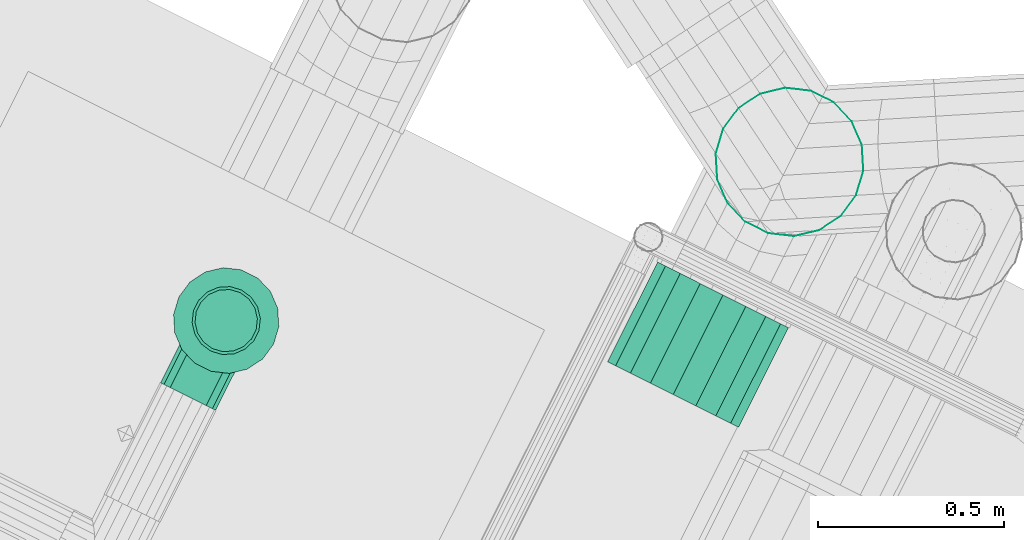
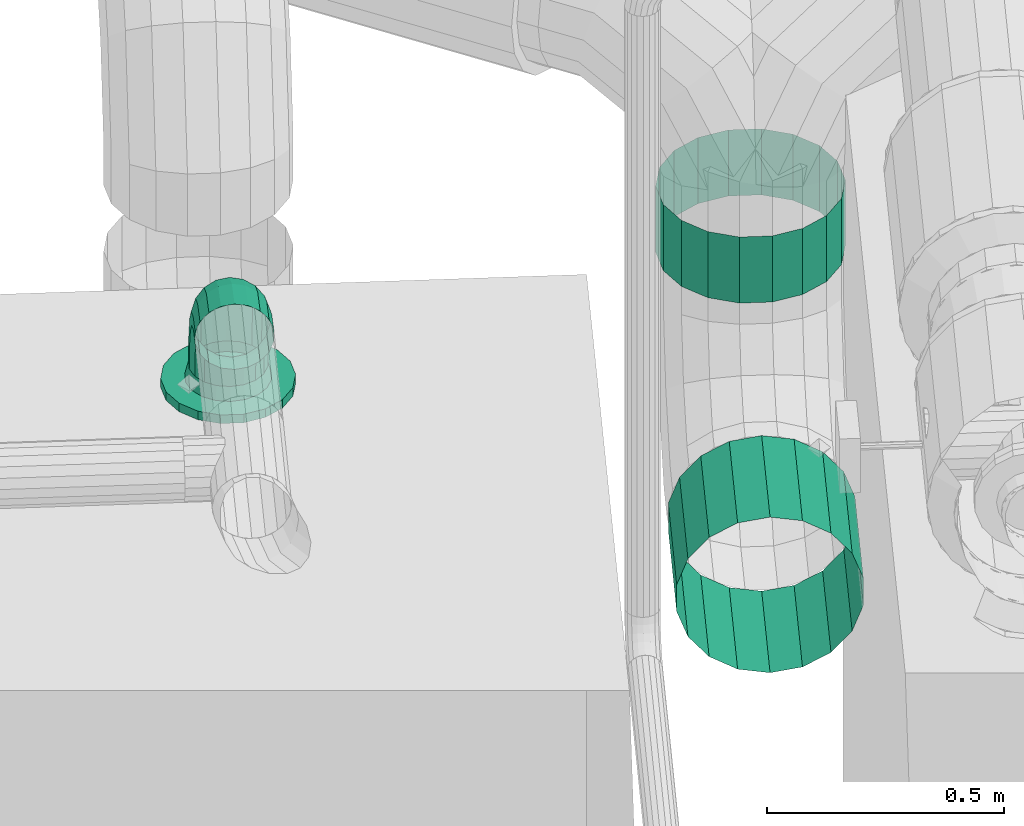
# One storey, part 122 of 206: 4 flow segments, 1 flow fitting.
"""IFC2X3 building model written with IfcOpenShell, lengths in metres."""

from ifc_helpers import new_model, si_unit, derived_unit, direction, frame, origin, place, context, subcontext, project, spatial, face_set, surface_model, source, transform, mapped, material, type_object, type_shapes, element, save


model = new_model("IFC2X3")

# Units and contexts
model_context = context("Model", 3, precision=5.2338327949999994e-05, world=origin(), true_north=direction((0.0, 1.0)))
body_context = subcontext(model_context, "Body", "Model", "MODEL_VIEW")
ifc_project = project(units=[si_unit("LENGTHUNIT", "METRE"), si_unit("AREAUNIT", "SQUARE_METRE"), si_unit("VOLUMEUNIT", "CUBIC_METRE"), si_unit("MASSUNIT", "GRAM", prefix="KILO"), si_unit("PLANEANGLEUNIT", "RADIAN"), derived_unit("THERMALTRANSMITTANCEUNIT", [(si_unit("MASSUNIT", "GRAM", prefix="KILO"), 1), (si_unit("THERMODYNAMICTEMPERATUREUNIT", "KELVIN"), -1), (si_unit("TIMEUNIT", "SECOND"), -3)])], contexts=[model_context])

# Site, building, storey
site_placement = place(None, frame((0.0, 0.0, 0.0), z_axis=(0.0, 0.0, 1.0), x_axis=(0.8939966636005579, -0.4480736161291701, 0.0)))
site = spatial("IfcSite", under=ifc_project, at=site_placement, Name="Default", CompositionType="ELEMENT")
building_placement = place(site_placement, origin())
building = spatial("IfcBuilding", under=site, at=building_placement, CompositionType="ELEMENT")
storey_placement = place(building_placement, origin())
storey = spatial("IfcBuildingStorey", under=building, at=storey_placement, Name="Erdgeschoss", CompositionType="ELEMENT", Elevation=0.0)

# Flow segments
ifc_material_1 = material(Name="IfcSurfaceStyle #251447")
distribution_element_type_1 = type_object("IfcDistributionElementType", material=ifc_material_1)
shared_shape_1 = source(origin(), body_context, "Body", "SurfaceModel", [
    surface_model("IfcFaceBasedSurfaceModel", [(22.605508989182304, 7.728208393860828, 1.4300000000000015), (22.673913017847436, 7.728208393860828, 1.4179385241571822), (22.673913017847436, 8.028208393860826, 1.417938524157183), (22.6055089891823, 8.028208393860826, 1.4300000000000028), (22.734066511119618, 7.728208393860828, 1.3832088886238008), (22.73406651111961, 8.028208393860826, 1.3832088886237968), (22.7787140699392, 7.728208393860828, 1.3300000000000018), (22.778714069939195, 8.028208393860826, 1.3299999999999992), (22.80247053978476, 7.728208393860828, 1.2647296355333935), (22.802470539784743, 8.028208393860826, 1.2647296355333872), (22.802470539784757, 7.728208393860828, 1.1952703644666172), (22.80247053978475, 8.028208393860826, 1.1952703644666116), (22.77871406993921, 7.728208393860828, 1.1300000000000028), (22.778714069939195, 8.028208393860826, 1.1299999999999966), (22.73406651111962, 7.728208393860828, 1.0767911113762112), (22.73406651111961, 8.028208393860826, 1.0767911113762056), (22.673913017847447, 7.728208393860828, 1.0420614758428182), (22.673913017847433, 8.028208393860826, 1.042061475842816), (22.605508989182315, 7.728208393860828, 1.0299999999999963), (22.6055089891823, 8.028208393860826, 1.0299999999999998), (22.537104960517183, 7.728208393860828, 1.0420614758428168), (22.53710496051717, 8.028208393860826, 1.0420614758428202), (22.476951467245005, 7.728208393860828, 1.076791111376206), (22.47695146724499, 8.028208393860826, 1.0767911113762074), (22.43230390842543, 7.728208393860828, 1.129999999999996), (22.43230390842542, 8.028208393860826, 1.1300000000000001), (22.408547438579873, 7.728208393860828, 1.19527036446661), (22.408547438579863, 8.028208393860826, 1.1952703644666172), (22.408547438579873, 7.728208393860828, 1.2647296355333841), (22.408547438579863, 8.028208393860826, 1.2647296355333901), (22.432303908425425, 7.728208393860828, 1.3299999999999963), (22.43230390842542, 8.028208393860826, 1.3300000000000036), (22.476951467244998, 7.728208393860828, 1.3832088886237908), (22.47695146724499, 8.028208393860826, 1.3832088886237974), (22.537104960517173, 7.728208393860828, 1.417938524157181), (22.537104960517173, 8.028208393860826, 1.4179385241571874)], [face_set([[[0, 1, 2, 3]], [[1, 4, 5, 2]], [[4, 6, 7, 5]], [[6, 8, 9, 7]], [[8, 10, 11, 9]], [[10, 12, 13, 11]], [[12, 14, 15, 13]], [[14, 16, 17, 15]], [[16, 18, 19, 17]], [[18, 20, 21, 19]], [[20, 22, 23, 21]], [[22, 24, 25, 23]], [[24, 26, 27, 25]], [[26, 28, 29, 27]], [[28, 30, 31, 29]], [[30, 32, 33, 31]], [[32, 34, 35, 33]], [[34, 0, 3, 35]]])]),
])
type_shapes(distribution_element_type_1, [shared_shape_1])
flow_segment_1_placement = place(storey_placement, origin())
element("IfcFlowSegment", 1, at=flow_segment_1_placement, inside=storey, type_object=distribution_element_type_1, material=ifc_material_1, Name="Wickelfalzrohr", ObjectType="Wickelfalzrohr", context=body_context, shape_type="MappedRepresentation", body=[
    mapped(shared_shape_1, transform((0.0, 0.0, 0.0), scale=1.0)),
])
distribution_element_type_2 = type_object("IfcDistributionElementType", Name="Wickelfalzrohr 284985:Wickelfalzrohr 284985", material=ifc_material_1)
shared_shape_2 = source(origin(), body_context, "Body", "SurfaceModel", [
    surface_model("IfcFaceBasedSurfaceModel", [(22.805508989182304, 8.428208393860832, 1.6300000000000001), (22.793447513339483, 8.496612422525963, 1.6300000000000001), (22.793447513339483, 8.496612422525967, 1.7999999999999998), (22.805508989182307, 8.428208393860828, 1.7999999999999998), (22.758717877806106, 8.556765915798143, 1.6300000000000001), (22.758717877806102, 8.55676591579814, 1.7999999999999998), (22.70550898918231, 8.601413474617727, 1.6300000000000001), (22.70550898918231, 8.60141347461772, 1.7999999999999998), (22.640238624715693, 8.625169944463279, 1.6300000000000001), (22.640238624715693, 8.625169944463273, 1.7999999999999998), (22.570779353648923, 8.625169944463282, 1.6300000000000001), (22.570779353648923, 8.625169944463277, 1.7999999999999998), (22.50550898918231, 8.601413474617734, 1.6300000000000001), (22.505508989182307, 8.601413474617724, 1.7999999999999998), (22.452300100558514, 8.556765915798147, 1.6300000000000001), (22.452300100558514, 8.556765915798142, 1.7999999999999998), (22.417570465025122, 8.496612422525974, 1.6300000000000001), (22.417570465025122, 8.496612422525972, 1.7999999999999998), (22.405508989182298, 8.428208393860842, 1.6300000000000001), (22.40550898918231, 8.428208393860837, 1.7999999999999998), (22.417570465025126, 8.35980436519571, 1.6300000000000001), (22.417570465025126, 8.359804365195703, 1.7999999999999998), (22.452300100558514, 8.299650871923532, 1.6300000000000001), (22.452300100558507, 8.299650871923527, 1.7999999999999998), (22.505508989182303, 8.255003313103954, 1.6300000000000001), (22.5055089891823, 8.255003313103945, 1.7999999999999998), (22.57077935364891, 8.231246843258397, 1.6300000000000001), (22.570779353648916, 8.231246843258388, 1.7999999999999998), (22.64023862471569, 8.231246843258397, 1.6300000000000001), (22.640238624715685, 8.23124684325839, 1.7999999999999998), (22.705508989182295, 8.255003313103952, 1.6300000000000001), (22.705508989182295, 8.255003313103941, 1.7999999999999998), (22.75871787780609, 8.299650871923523, 1.6300000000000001), (22.75871787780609, 8.29965087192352, 1.7999999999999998), (22.79344751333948, 8.359804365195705, 1.6300000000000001), (22.79344751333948, 8.359804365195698, 1.7999999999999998)], [face_set([[[0, 1, 2, 3]], [[1, 4, 5, 2]], [[4, 6, 7, 5]], [[6, 8, 9, 7]], [[8, 10, 11, 9]], [[10, 12, 13, 11]], [[12, 14, 15, 13]], [[14, 16, 17, 15]], [[16, 18, 19, 17]], [[18, 20, 21, 19]], [[20, 22, 23, 21]], [[22, 24, 25, 23]], [[24, 26, 27, 25]], [[26, 28, 29, 27]], [[28, 30, 31, 29]], [[30, 32, 33, 31]], [[32, 34, 35, 33]], [[34, 0, 3, 35]]])]),
])
type_shapes(distribution_element_type_2, [shared_shape_2])
flow_segment_2_placement = place(storey_placement, origin())
element("IfcFlowSegment", 2, at=flow_segment_2_placement, inside=storey, type_object=distribution_element_type_2, material=ifc_material_1, Name="Wickelfalzrohr", ObjectType="Wickelfalzrohr", context=body_context, shape_type="MappedRepresentation", body=[
    mapped(shared_shape_2, transform((0.0, 0.0, 0.0), scale=1.0)),
])
distribution_element_type_3 = type_object("IfcDistributionElementType", material=ifc_material_1)
shared_shape_3 = source(origin(), body_context, "Body", "SurfaceModel", [
    surface_model("IfcFaceBasedSurfaceModel", [(22.605508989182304, 7.728208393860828, 1.4300000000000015), (22.673913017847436, 7.728208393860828, 1.4179385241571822), (22.673913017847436, 8.028208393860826, 1.417938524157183), (22.6055089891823, 8.028208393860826, 1.4300000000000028), (22.734066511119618, 7.728208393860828, 1.3832088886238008), (22.73406651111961, 8.028208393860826, 1.3832088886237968), (22.7787140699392, 7.728208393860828, 1.3300000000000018), (22.778714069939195, 8.028208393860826, 1.3299999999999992), (22.80247053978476, 7.728208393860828, 1.2647296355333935), (22.802470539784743, 8.028208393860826, 1.2647296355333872), (22.802470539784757, 7.728208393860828, 1.1952703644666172), (22.80247053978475, 8.028208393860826, 1.1952703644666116), (22.77871406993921, 7.728208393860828, 1.1300000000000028), (22.778714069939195, 8.028208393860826, 1.1299999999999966), (22.73406651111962, 7.728208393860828, 1.0767911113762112), (22.73406651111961, 8.028208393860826, 1.0767911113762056), (22.673913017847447, 7.728208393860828, 1.0420614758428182), (22.673913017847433, 8.028208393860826, 1.042061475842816), (22.605508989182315, 7.728208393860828, 1.0299999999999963), (22.6055089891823, 8.028208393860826, 1.0299999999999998), (22.537104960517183, 7.728208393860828, 1.0420614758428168), (22.53710496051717, 8.028208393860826, 1.0420614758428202), (22.476951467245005, 7.728208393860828, 1.076791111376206), (22.47695146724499, 8.028208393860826, 1.0767911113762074), (22.43230390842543, 7.728208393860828, 1.129999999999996), (22.43230390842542, 8.028208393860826, 1.1300000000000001), (22.408547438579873, 7.728208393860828, 1.19527036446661), (22.408547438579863, 8.028208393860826, 1.1952703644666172), (22.408547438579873, 7.728208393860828, 1.2647296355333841), (22.408547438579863, 8.028208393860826, 1.2647296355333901), (22.432303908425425, 7.728208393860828, 1.3299999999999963), (22.43230390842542, 8.028208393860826, 1.3300000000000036), (22.476951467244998, 7.728208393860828, 1.3832088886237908), (22.47695146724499, 8.028208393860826, 1.3832088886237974), (22.537104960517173, 7.728208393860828, 1.417938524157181), (22.537104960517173, 8.028208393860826, 1.4179385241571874)], [face_set([[[0, 1, 2, 3]], [[1, 4, 5, 2]], [[4, 6, 7, 5]], [[6, 8, 9, 7]], [[8, 10, 11, 9]], [[10, 12, 13, 11]], [[12, 14, 15, 13]], [[14, 16, 17, 15]], [[16, 18, 19, 17]], [[18, 20, 21, 19]], [[20, 22, 23, 21]], [[22, 24, 25, 23]], [[24, 26, 27, 25]], [[26, 28, 29, 27]], [[28, 30, 31, 29]], [[30, 32, 33, 31]], [[32, 34, 35, 33]], [[34, 0, 3, 35]]])]),
])
type_shapes(distribution_element_type_3, [shared_shape_3])
flow_segment_3_placement = place(storey_placement, origin())
element("IfcFlowSegment", 3, at=flow_segment_3_placement, inside=storey, type_object=distribution_element_type_3, material=ifc_material_1, Name="Wickelfalzrohr", ObjectType="Wickelfalzrohr", context=body_context, shape_type="MappedRepresentation", body=[
    mapped(shared_shape_3, transform((0.0, 0.0, 0.0), scale=1.0)),
])
ifc_material_2 = material(Name="IfcSurfaceStyle #9317")
distribution_element_type_4 = type_object("IfcDistributionElementType", Name="Rohrbogen 316868:Rohrbogen 316868", material=ifc_material_2)
shared_shape_4 = source(origin(), body_context, "Body", "SurfaceModel", [
    surface_model("IfcFaceBasedSurfaceModel", [(21.440947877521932, 7.451457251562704, 2.125000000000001), (21.41216688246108, 7.446382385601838, 2.1250000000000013), (21.41216688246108, 7.431304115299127, 2.2202004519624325), (21.440947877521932, 7.436130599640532, 2.2217686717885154), (21.41216688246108, 7.387545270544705, 2.306082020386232), (21.440947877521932, 7.391650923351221, 2.309064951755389), (21.41216688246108, 7.3193892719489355, 2.374238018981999), (21.440947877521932, 7.322372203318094, 2.378343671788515), (21.41216688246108, 7.23350770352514, 2.4179968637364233), (21.440947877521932, 7.235075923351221, 2.422823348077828), (21.41216688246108, 7.138307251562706, 2.4330751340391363), (21.44094787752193, 7.138307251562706, 2.4381500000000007), (21.38685730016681, 7.431769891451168, 2.1250000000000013), (21.38685730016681, 7.417406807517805, 2.2156849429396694), (21.386857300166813, 7.375723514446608, 2.2974930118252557), (21.386857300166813, 7.310800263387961, 2.3624162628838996), (21.386857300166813, 7.228992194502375, 2.4040995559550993), (21.386857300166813, 7.138307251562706, 2.418462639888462), (21.368071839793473, 7.409382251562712, 2.1250000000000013), (21.368071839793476, 7.396114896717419, 2.20876678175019), (21.368071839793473, 7.357611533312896, 2.2843338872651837), (21.368071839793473, 7.297641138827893, 2.3443042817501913), (21.368071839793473, 7.222074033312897, 2.3828076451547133), (21.368071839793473, 7.138307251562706, 2.3960750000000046), (21.358076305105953, 7.381919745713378, 2.125000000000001), (21.358076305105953, 7.369996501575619, 2.2002804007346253), (21.358076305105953, 7.335393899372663, 2.268191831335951), (21.358076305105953, 7.281499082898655, 2.3220866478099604), (21.358076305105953, 7.21358765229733, 2.356689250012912), (21.358076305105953, 7.138307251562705, 2.3686124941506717), (21.358076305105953, 7.352694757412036, 2.125000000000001), (21.358076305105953, 7.342201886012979, 2.1912493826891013), (21.358076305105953, 7.3117503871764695, 2.251013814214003), (21.358076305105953, 7.26432106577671, 2.298443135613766), (21.358076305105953, 7.204556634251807, 2.3288946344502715), (21.358076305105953, 7.138307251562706, 2.3393875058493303), (21.36807183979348, 7.325232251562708, 2.125000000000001), (21.368071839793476, 7.316083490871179, 2.1827630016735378), (21.368071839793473, 7.289532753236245, 2.2348717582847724), (21.368071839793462, 7.248179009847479, 2.276225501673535), (21.36807183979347, 7.196070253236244, 2.302776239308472), (21.368071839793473, 7.13830725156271, 2.3119250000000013), (21.38685730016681, 7.302844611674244, 2.1250000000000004), (21.38685730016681, 7.294791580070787, 2.1758448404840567), (21.38685730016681, 7.271420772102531, 2.221712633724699), (21.38685730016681, 7.235019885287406, 2.2581135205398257), (21.38685730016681, 7.18915209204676, 2.2814843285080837), (21.38685730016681, 7.138307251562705, 2.2895373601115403), (21.412166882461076, 7.288232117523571, 2.1250000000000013), (21.412166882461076, 7.280894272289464, 2.1713293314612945), (21.412166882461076, 7.259599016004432, 2.2131236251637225), (21.412166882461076, 7.226430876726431, 2.2462917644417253), (21.412166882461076, 7.184636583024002, 2.267587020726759), (21.412166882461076, 7.138307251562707, 2.274924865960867), (21.440947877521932, 7.283157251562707, 2.1250000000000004), (21.440947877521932, 7.276067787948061, 2.1697611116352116), (21.440947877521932, 7.255493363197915, 2.210140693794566), (21.440947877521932, 7.223447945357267, 2.24218611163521), (21.44094787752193, 7.183068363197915, 2.2627605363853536), (21.44094787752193, 7.138307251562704, 2.2698500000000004), (21.46972887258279, 7.288232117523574, 2.1250000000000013), (21.469728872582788, 7.280894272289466, 2.1713293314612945), (21.46972887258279, 7.259599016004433, 2.2131236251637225), (21.469728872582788, 7.226430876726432, 2.2462917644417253), (21.469728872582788, 7.184636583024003, 2.2675870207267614), (21.469728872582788, 7.138307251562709, 2.274924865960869), (21.495038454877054, 7.302844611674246, 2.125000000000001), (21.495038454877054, 7.294791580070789, 2.1758448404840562), (21.495038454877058, 7.271420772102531, 2.221712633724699), (21.495038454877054, 7.235019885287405, 2.258113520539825), (21.495038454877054, 7.189152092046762, 2.281484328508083), (21.495038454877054, 7.138307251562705, 2.2895373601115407), (21.513823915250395, 7.325232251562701, 2.1250000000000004), (21.513823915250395, 7.316083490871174, 2.182763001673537), (21.513823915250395, 7.28953275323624, 2.234871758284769), (21.513823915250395, 7.248179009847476, 2.2762255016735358), (21.513823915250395, 7.196070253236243, 2.3027762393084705), (21.51382391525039, 7.138307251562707, 2.3119250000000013), (21.523819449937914, 7.352694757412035, 2.125000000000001), (21.523819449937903, 7.342201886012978, 2.1912493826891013), (21.523819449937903, 7.311750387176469, 2.2510138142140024), (21.523819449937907, 7.26432106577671, 2.2984431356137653), (21.523819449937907, 7.204556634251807, 2.3288946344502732), (21.523819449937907, 7.138307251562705, 2.3393875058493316), (21.523819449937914, 7.381919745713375, 2.125000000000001), (21.523819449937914, 7.369996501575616, 2.2002804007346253), (21.523819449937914, 7.335393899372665, 2.2681918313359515), (21.523819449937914, 7.281499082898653, 2.3220866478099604), (21.523819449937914, 7.2135876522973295, 2.356689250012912), (21.523819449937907, 7.138307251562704, 2.3686124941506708), (21.513823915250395, 7.409382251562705, 2.125000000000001), (21.513823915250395, 7.396114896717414, 2.2087667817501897), (21.513823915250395, 7.357611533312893, 2.2843338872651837), (21.513823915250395, 7.297641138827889, 2.344304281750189), (21.513823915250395, 7.222074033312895, 2.3828076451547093), (21.51382391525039, 7.138307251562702, 2.3960750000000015), (21.495038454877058, 7.43176989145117, 2.1250000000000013), (21.495038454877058, 7.417406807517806, 2.2156849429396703), (21.495038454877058, 7.375723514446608, 2.2974930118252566), (21.495038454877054, 7.310800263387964, 2.3624162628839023), (21.495038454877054, 7.228992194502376, 2.404099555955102), (21.495038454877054, 7.138307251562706, 2.4184626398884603), (21.469728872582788, 7.446382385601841, 2.1250000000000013), (21.469728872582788, 7.4313041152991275, 2.2202004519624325), (21.46972887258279, 7.387545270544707, 2.3060820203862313), (21.46972887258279, 7.319389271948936, 2.374238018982), (21.46972887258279, 7.233507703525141, 2.4179968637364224), (21.469728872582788, 7.138307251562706, 2.433075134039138)], [face_set([[[0, 1, 2, 3]], [[3, 2, 4, 5]], [[5, 4, 6, 7]], [[7, 6, 8, 9]], [[9, 8, 10, 11]], [[1, 12, 13, 2]], [[2, 13, 14, 4]], [[4, 14, 15, 6]], [[6, 15, 16, 8]], [[8, 16, 17, 10]], [[12, 18, 19, 13]], [[13, 19, 20, 14]], [[14, 20, 21, 15]], [[15, 21, 22, 16]], [[16, 22, 23, 17]], [[18, 24, 25, 19]], [[19, 25, 26, 20]], [[20, 26, 27, 21]], [[21, 27, 28, 22]], [[22, 28, 29, 23]], [[24, 30, 31, 25]], [[25, 31, 32, 26]], [[26, 32, 33, 27]], [[27, 33, 34, 28]], [[28, 34, 35, 29]], [[30, 36, 37, 31]], [[31, 37, 38, 32]], [[32, 38, 39, 33]], [[33, 39, 40, 34]], [[34, 40, 41, 35]], [[36, 42, 43, 37]], [[37, 43, 44, 38]], [[38, 44, 45, 39]], [[39, 45, 46, 40]], [[40, 46, 47, 41]], [[42, 48, 49, 43]], [[43, 49, 50, 44]], [[44, 50, 51, 45]], [[45, 51, 52, 46]], [[46, 52, 53, 47]], [[48, 54, 55, 49]], [[49, 55, 56, 50]], [[50, 56, 57, 51]], [[51, 57, 58, 52]], [[52, 58, 59, 53]], [[54, 60, 61, 55]], [[55, 61, 62, 56]], [[56, 62, 63, 57]], [[57, 63, 64, 58]], [[58, 64, 65, 59]], [[60, 66, 67, 61]], [[61, 67, 68, 62]], [[62, 68, 69, 63]], [[63, 69, 70, 64]], [[64, 70, 71, 65]], [[66, 72, 73, 67]], [[67, 73, 74, 68]], [[68, 74, 75, 69]], [[69, 75, 76, 70]], [[70, 76, 77, 71]], [[72, 78, 79, 73]], [[73, 79, 80, 74]], [[74, 80, 81, 75]], [[75, 81, 82, 76]], [[76, 82, 83, 77]], [[78, 84, 85, 79]], [[79, 85, 86, 80]], [[80, 86, 87, 81]], [[81, 87, 88, 82]], [[82, 88, 89, 83]], [[84, 90, 91, 85]], [[85, 91, 92, 86]], [[86, 92, 93, 87]], [[87, 93, 94, 88]], [[88, 94, 95, 89]], [[90, 96, 97, 91]], [[91, 97, 98, 92]], [[92, 98, 99, 93]], [[93, 99, 100, 94]], [[94, 100, 101, 95]], [[96, 102, 103, 97]], [[97, 103, 104, 98]], [[98, 104, 105, 99]], [[99, 105, 106, 100]], [[100, 106, 107, 101]], [[102, 0, 3, 103]], [[103, 3, 5, 104]], [[104, 5, 7, 105]], [[105, 7, 9, 106]], [[106, 9, 11, 107]]])]),
])
type_shapes(distribution_element_type_4, [shared_shape_4])
flow_segment_4_placement = place(storey_placement, origin())
element("IfcFlowSegment", 4, at=flow_segment_4_placement, inside=storey, type_object=distribution_element_type_4, material=ifc_material_2, Name="Rohrbogen", ObjectType="Rohrbogen", context=body_context, shape_type="MappedRepresentation", body=[
    mapped(shared_shape_4, transform((0.0, 0.0, 0.0), scale=1.0)),
])

# Flow fitting
distribution_element_type_5 = type_object("IfcDistributionElementType", material=ifc_material_2)
shared_shape_5 = source(origin(), body_context, "Body", "SurfaceModel", [
    surface_model("IfcFaceBasedSurfaceModel", [(21.298447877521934, 7.367307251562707, 2.07), (21.307041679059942, 7.3185693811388, 2.07), (21.307041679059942, 7.3185693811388, 2.0919999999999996), (21.298447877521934, 7.367307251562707, 2.0919999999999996), (21.331786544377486, 7.275710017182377, 2.07), (21.331786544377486, 7.275710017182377, 2.0919999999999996), (21.369697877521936, 7.243898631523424, 2.07), (21.369697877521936, 7.243898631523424, 2.0919999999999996), (21.416203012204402, 7.226972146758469, 2.07), (21.416203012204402, 7.226972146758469, 2.0919999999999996), (21.465692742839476, 7.226972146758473, 2.07), (21.465692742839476, 7.226972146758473, 2.0919999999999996), (21.51219787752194, 7.243898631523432, 2.07), (21.51219787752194, 7.243898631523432, 2.0919999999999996), (21.55010921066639, 7.275710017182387, 2.07), (21.55010921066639, 7.275710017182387, 2.0919999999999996), (21.57485407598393, 7.3185693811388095, 2.07), (21.57485407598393, 7.3185693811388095, 2.0919999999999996), (21.583447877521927, 7.36730725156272, 2.07), (21.583447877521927, 7.36730725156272, 2.0919999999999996), (21.57485407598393, 7.4160451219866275, 2.07), (21.57485407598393, 7.4160451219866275, 2.0919999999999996), (21.55010921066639, 7.458904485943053, 2.07), (21.55010921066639, 7.458904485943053, 2.0919999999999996), (21.51219787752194, 7.490715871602, 2.07), (21.51219787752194, 7.490715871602, 2.0919999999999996), (21.465692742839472, 7.507642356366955, 2.07), (21.465692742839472, 7.507642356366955, 2.0919999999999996), (21.4162030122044, 7.507642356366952, 2.07), (21.4162030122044, 7.507642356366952, 2.0919999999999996), (21.369697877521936, 7.490715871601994, 2.07), (21.369697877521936, 7.490715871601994, 2.0919999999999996), (21.331786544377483, 7.458904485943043, 2.07), (21.331786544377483, 7.458904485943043, 2.0919999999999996), (21.30704167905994, 7.416045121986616, 2.07), (21.30704167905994, 7.416045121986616, 2.0919999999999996), (21.440947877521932, 7.367307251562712, 2.091999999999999), (21.440947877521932, 7.275307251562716, 2.091999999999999), (21.472413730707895, 7.280855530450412, 2.091999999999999), (21.46972887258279, 7.288232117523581, 2.1249999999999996), (21.440947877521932, 7.283157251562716, 2.1249999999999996), (21.5000843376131, 7.29683116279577, 2.0919999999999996), (21.495038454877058, 7.302844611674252, 2.125), (21.5206222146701, 7.321307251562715, 2.0920000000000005), (21.5138239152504, 7.3252322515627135, 2.125000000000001), (21.531550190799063, 7.351331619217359, 2.0920000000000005), (21.523819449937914, 7.352694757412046, 2.125000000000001), (21.531550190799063, 7.383282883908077, 2.091999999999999), (21.523819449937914, 7.381919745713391, 2.1249999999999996), (21.5206222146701, 7.41330725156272, 2.0919999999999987), (21.513823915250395, 7.409382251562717, 2.124999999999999), (21.5000843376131, 7.437783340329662, 2.0920000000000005), (21.495038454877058, 7.431769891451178, 2.125000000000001), (21.472413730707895, 7.453758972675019, 2.0919999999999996), (21.46972887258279, 7.446382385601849, 2.125), (21.44094787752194, 7.459307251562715, 2.0919999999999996), (21.440947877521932, 7.451457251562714, 2.125), (21.409482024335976, 7.453758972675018, 2.0919999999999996), (21.41216688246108, 7.446382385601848, 2.125), (21.38181141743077, 7.437783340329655, 2.0919999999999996), (21.386857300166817, 7.4317698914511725, 2.125), (21.361273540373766, 7.41330725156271, 2.0919999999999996), (21.368071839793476, 7.409382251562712, 2.125), (21.350345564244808, 7.383282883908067, 2.0919999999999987), (21.358076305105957, 7.3819197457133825, 2.124999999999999), (21.350345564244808, 7.351331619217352, 2.091999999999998), (21.358076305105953, 7.3526947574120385, 2.1249999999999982), (21.361273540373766, 7.321307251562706, 2.0920000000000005), (21.368071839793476, 7.325232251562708, 2.125000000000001), (21.38181141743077, 7.2968311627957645, 2.0919999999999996), (21.386857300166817, 7.302844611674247, 2.125), (21.409482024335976, 7.28085553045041, 2.0919999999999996), (21.412166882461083, 7.2882321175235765, 2.125)], [face_set([[[0, 1, 2, 3]], [[1, 4, 5, 2]], [[4, 6, 7, 5]], [[6, 8, 9, 7]], [[8, 10, 11, 9]], [[10, 12, 13, 11]], [[12, 14, 15, 13]], [[14, 16, 17, 15]], [[16, 18, 19, 17]], [[18, 20, 21, 19]], [[20, 22, 23, 21]], [[22, 24, 25, 23]], [[24, 26, 27, 25]], [[26, 28, 29, 27]], [[28, 30, 31, 29]], [[30, 32, 33, 31]], [[32, 34, 35, 33]], [[34, 0, 3, 35]], [[36, 35, 3]], [[36, 33, 35]], [[36, 31, 33]], [[36, 29, 31]], [[36, 27, 29]], [[36, 25, 27]], [[36, 23, 25]], [[36, 21, 23]], [[36, 19, 21]], [[36, 17, 19]], [[36, 15, 17]], [[36, 13, 15]], [[36, 11, 13]], [[36, 9, 11]], [[36, 7, 9]], [[36, 5, 7]], [[36, 2, 5]], [[36, 3, 2]], [[37, 38, 39, 40]], [[38, 41, 42, 39]], [[41, 43, 44, 42]], [[43, 45, 46, 44]], [[45, 47, 48, 46]], [[47, 49, 50, 48]], [[49, 51, 52, 50]], [[51, 53, 54, 52]], [[53, 55, 56, 54]], [[55, 57, 58, 56]], [[57, 59, 60, 58]], [[59, 61, 62, 60]], [[61, 63, 64, 62]], [[63, 65, 66, 64]], [[65, 67, 68, 66]], [[67, 69, 70, 68]], [[69, 71, 72, 70]], [[71, 37, 40, 72]]])]),
])
type_shapes(distribution_element_type_5, [shared_shape_5])
flow_fitting_placement = place(storey_placement, origin())
element("IfcFlowFitting", 5, at=flow_fitting_placement, inside=storey, type_object=distribution_element_type_5, material=ifc_material_2, Name="Flansch", ObjectType="Flansch", context=body_context, shape_type="MappedRepresentation", body=[
    mapped(shared_shape_5, transform((0.0, 0.0, 0.0), scale=1.0)),
])

save(model, "model.ifc")
